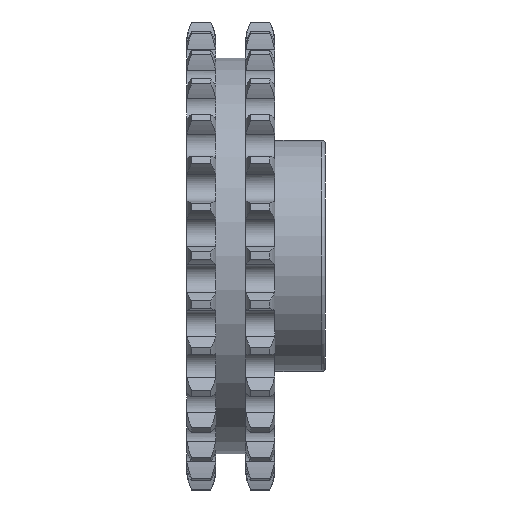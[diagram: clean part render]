
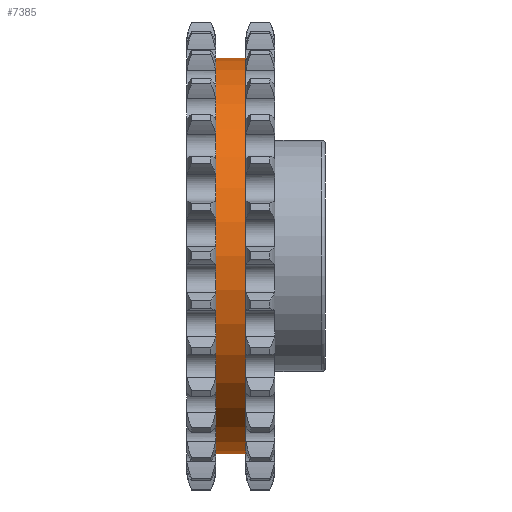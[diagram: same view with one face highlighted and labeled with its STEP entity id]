
A CAD part, front view. The second image highlights one B-rep face of the part: STEP entity #7385.
In plain terms, the highlighted cylindrical face has radius 107.06 mm (diameter 214.12 mm), a full revolution.
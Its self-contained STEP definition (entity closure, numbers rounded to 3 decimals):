
#26=FACE_BOUND('',#1392,.T.);
#516=CIRCLE('',#8025,107.06);
#641=CIRCLE('',#8245,107.06);
#1010=FACE_OUTER_BOUND('',#1391,.T.);
#1391=EDGE_LOOP('',(#6633));
#1392=EDGE_LOOP('',(#6634));
#3141=VERTEX_POINT('',#14499);
#3149=VERTEX_POINT('',#14727);
#4230=EDGE_CURVE('',#3141,#3141,#516,.T.);
#4355=EDGE_CURVE('',#3149,#3149,#641,.T.);
#6633=ORIENTED_EDGE('',*,*,#4230,.T.);
#6634=ORIENTED_EDGE('',*,*,#4355,.F.);
#7017=CYLINDRICAL_SURFACE('',#8244,107.06);
#7385=ADVANCED_FACE('',(#1010,#26),#7017,.T.);
#8025=AXIS2_PLACEMENT_3D('',#14500,#9759,#9760);
#8244=AXIS2_PLACEMENT_3D('',#14726,#10197,#10198);
#8245=AXIS2_PLACEMENT_3D('',#14728,#10199,#10200);
#9759=DIRECTION('center_axis',(-1.,0.,0.));
#9760=DIRECTION('ref_axis',(0.,0.,1.));
#10197=DIRECTION('center_axis',(-1.,0.,0.));
#10198=DIRECTION('ref_axis',(0.,-1.,0.));
#10199=DIRECTION('center_axis',(-1.,0.,0.));
#10200=DIRECTION('ref_axis',(0.,0.,1.));
#14499=CARTESIAN_POINT('',(20.573,8.405,0.));
#14500=CARTESIAN_POINT('Origin',(20.573,115.465,0.));
#14726=CARTESIAN_POINT('Origin',(12.523,115.465,0.));
#14727=CARTESIAN_POINT('',(4.473,8.405,0.));
#14728=CARTESIAN_POINT('Origin',(4.473,115.465,0.));
